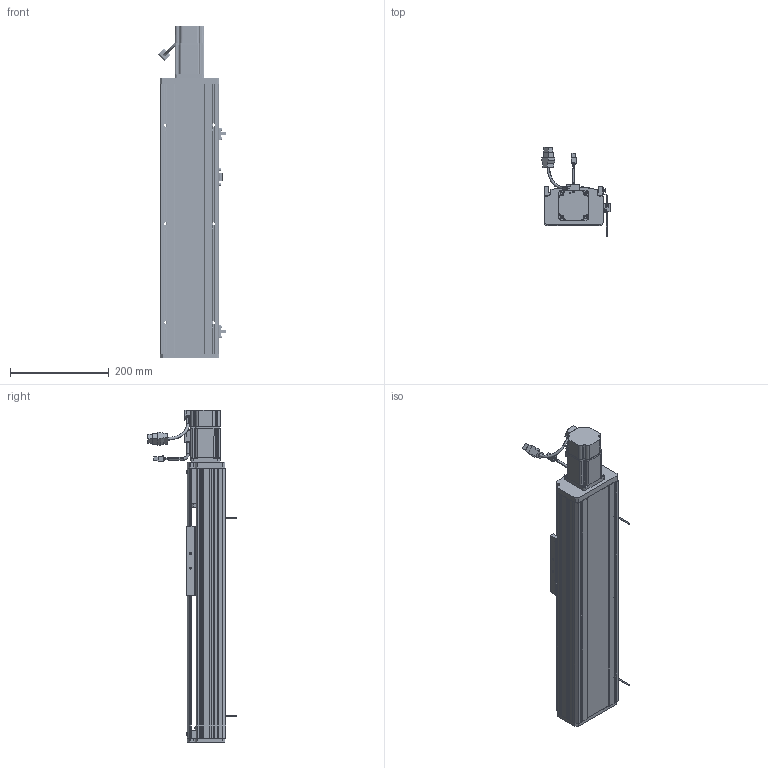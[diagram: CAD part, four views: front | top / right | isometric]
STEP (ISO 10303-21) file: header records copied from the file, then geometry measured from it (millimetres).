
FILE_DESCRIPTION (( 'STEP AP214' ), '1' );
FILE_NAME ('CTH120-300.STEP', '2019-11-20T02:36:06', ( '微软用户' ), ( '微软中国' ), 'SwSTEP 2.0', 'SolidWorks 2017', '' );
FILE_SCHEMA (( 'AUTOMOTIVE_DESIGN' ));
Length unit declared in the file: millimetre
Products named in the file (33): SFH1605-450; M4-L16囀鞠褒蹟佪; 120模组-底座_默认<按加工>; EGH15-CA; EGH15_RAIL; CTH120-300; 珨极宒粣創釱; 遣喳蝶15x12x8; M4-L10囀鞠褒蹟佪; M4-L22囀鞠褒蹟佪; 7001-DB; 7001; 噩砃EGH15-CA; 粣創揤啣; M3-L8囀鞠褒蹟佪; COL12B-粣遠; CT12耀郪-覜茼んえ; 坶踡蹟譫; EE-SX672-BR; 120耀郪-粣創釱; M4-L6半圆头内六角螺丝; 120耀郪-傷啣; M5-L20囀鞠褒蹟佪; 120模组-盖子_默认<按加工>; M5-L12囀鞠褒蹟佪; 120耀郪-侜督儂啣; 怢湛200W侜督萇儂ECMA-CX0602ES; SFH1605; 盓傅釱蚾饜极; 136蹟簽蟀諉輸; 6000; 120模组-移动座_默认<按加工>; 120耀郪-盓傅釱
Assembly tree (90 placements, depth 4):
  CTH120-300
    120模组-底座_默认<按加工>
    SFH1605-450
    120模组-移动座_默认<按加工>
    136蹟簽蟀諉輸
    SFH1605
    120耀郪-侜督儂啣
    120模组-盖子_默认<按加工>
    120耀郪-傷啣
    珨极宒粣創釱
      120耀郪-粣創釱
      坶踡蹟譫
      COL12B-粣遠  x2
      粣創揤啣
      7001-DB
        7001  x2
      M4-L22囀鞠褒蹟佪  x6
      M4-L10囀鞠褒蹟佪  x4
      遣喳蝶15x12x8
    EGH15_RAIL  x2
    EGH15-CA  x2
    M4-L16囀鞠褒蹟佪  x8
    M4-L10囀鞠褒蹟佪  x22
    盓傅釱蚾饜极
      120耀郪-盓傅釱
      6000
      遣喳蝶15x12x8  x2
      M4-L22囀鞠褒蹟佪  x2
    怢湛200W侜督萇儂ECMA-CX0602ES
    M5-L12囀鞠褒蹟佪  x3
    M5-L20囀鞠褒蹟佪  x4
    M4-L6半圆头内六角螺丝  x4
    EE-SX672-BR  x2
    CT12耀郪-覜茼んえ
    M3-L8囀鞠褒蹟佪  x4
    噩砃EGH15-CA  x2
Bounding box: 137.94 x 179.67 x 672 mm (x, y, z)
Volume: 2832999.4 mm3; surface area: 843704.2 mm2
Topology: 87 solids, 96 shells, 5064 faces, 13267 edges, 8473 vertices
Faces by surface type: plane 2775, cylinder 1436, cone 519, bspline 241, torus 81, sphere 12
Entity records: 104446 total; most frequent: CARTESIAN_POINT 30409, ORIENTED_EDGE 15464, DIRECTION 14143, EDGE_CURVE 7732, VERTEX_POINT 5071, AXIS2_PLACEMENT_3D 4782, VECTOR 4579, LINE 4579
